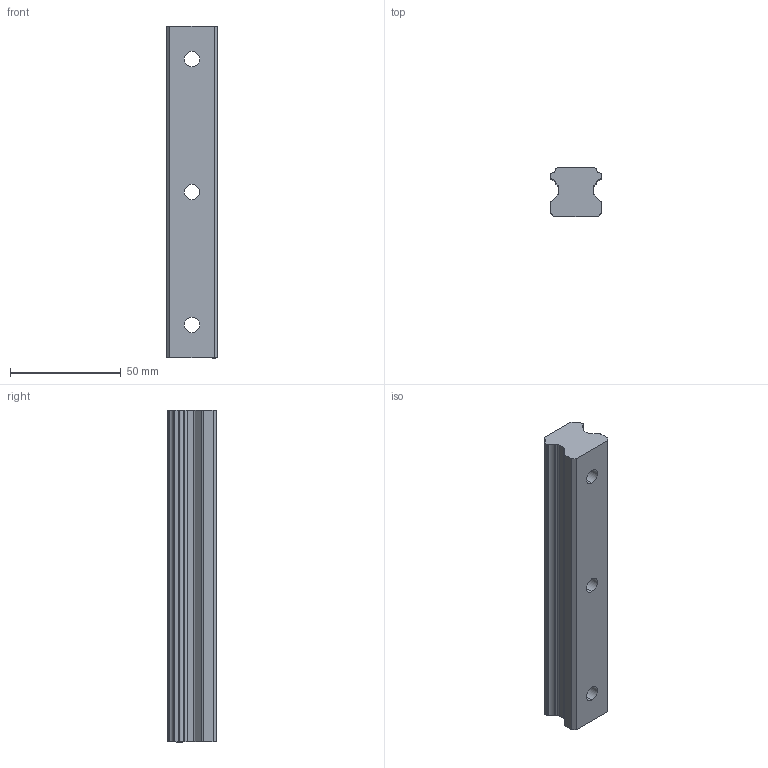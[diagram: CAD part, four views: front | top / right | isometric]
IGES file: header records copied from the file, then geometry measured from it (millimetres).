
Start section: SolidWorks IGES file using analytic representation for surfaces
Global section: file name: C:\Documents and Settings\Àäìèíèñòðàòîð\Ìîè äîêóìåíòû\Google Äèñê\darxton\doc\3d\hiwin\HGR25R.IGS; native system: SolidWorks 2012; preprocessor: SolidWorks 2012; author: Àäìèíèñòðàòîð; date: 130703.180155; units: millimetre
Bounding box: 23 x 22 x 150 mm (x, y, z)
Volume: 61696.4 mm3; surface area: 16081.1 mm2
Topology: 1 solids, 1 shells, 59 faces, 162 edges, 108 vertices
Faces by surface type: revolution 34, plane 25
